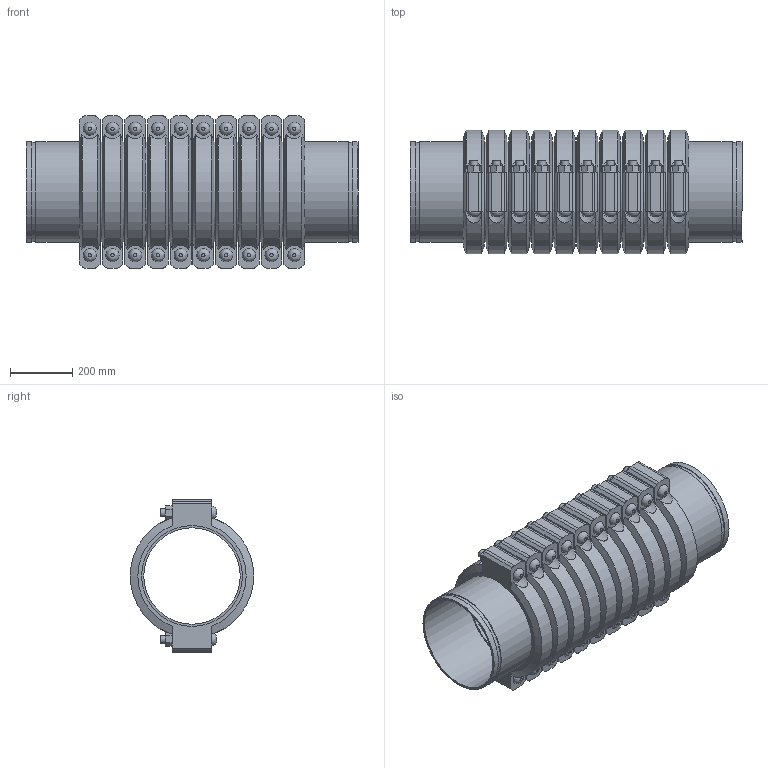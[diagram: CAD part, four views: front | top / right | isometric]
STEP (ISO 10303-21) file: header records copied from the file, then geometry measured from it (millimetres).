
FILE_DESCRIPTION(/* description */ ('VIC SS EXPANSION JOINT 10 COUPLINGS NEUTRAL STYLE 155P (OGS) (POTABLE WATER) ','CAx-IF Rec.Pracs.---Representation and Presentation of Product Manufacturing Information (PMI)---4.0---2014-10-13'),/* implementation_level */ '2;1');
FILE_NAME(/* name */ 'C:\Users\kkamble\AppData\Roaming\Autodesk\ApplicationPlugins\Victaulic.Temp\A116\Victaulic_SS_Expansion Joint_Neutral_10 Couplings_Style 155P (OGS)-Potable Water_10 Coup_Neut_12 (300).stp',/* time_stamp */ '2021-07-16T16:27:33+06:00',/* author */ ('kkamble'),/* organization */ ('Victaulic'),/* preprocessor_version */ 'ST-DEVELOPER v17.2',/* originating_system */ 'Autodesk Inventor 2019',/* authorisation */ '');
FILE_SCHEMA (('AP242_MANAGED_MODEL_BASED_3D_ENGINEERING_MIM_LF { 1 0 10303 442 1 1 4 }'));
Length unit declared in the file: inch
Products named in the file (4): 155P-12.0; Nipple-12.0; Nipple-12.0_1; 077-12.0
Assembly tree (21 placements, depth 2):
  155P-12.0
    Nipple-12.0  x2
    Nipple-12.0_1  x9
    077-12.0  x10
Bounding box: 1066.8 x 397 x 488.95 mm (x, y, z)
Volume: 40643095.8 mm3; surface area: 5534082.5 mm2
Topology: 21 solids, 41 shells, 742 faces, 1780 edges, 1244 vertices
Faces by surface type: plane 426, cylinder 256, cone 40, bspline 20
Full cylindrical faces by diameter (mm): 25.4 x40, 27.432 x20, 309.677 x11, 314.96 x10, 318.287 x22, 323.85 x53
Entity records: 3137 total; most frequent: CARTESIAN_POINT 669, DIRECTION 497, ORIENTED_EDGE 410, EDGE_CURVE 205, AXIS2_PLACEMENT_3D 204, VERTEX_POINT 146, EDGE_LOOP 111, CIRCLE 96
